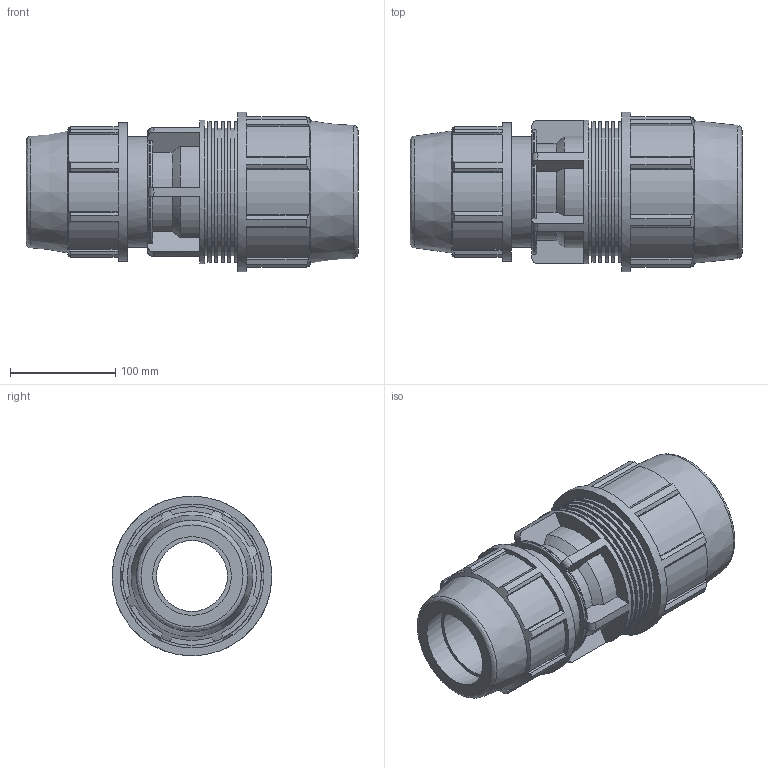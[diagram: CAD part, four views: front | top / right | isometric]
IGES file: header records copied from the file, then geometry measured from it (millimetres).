
Global section: file name: 871100090075_181100090075.ipt; native system: Autodesk Inventor 2015; preprocessor: unknown; author: KIM; date: 20170608.042523; units: millimetre
Bounding box: 316 x 152 x 152 mm (x, y, z)
Volume: 2172808.7 mm3; surface area: 287282 mm2
Topology: 1 solids, 1 shells, 207 faces, 580 edges, 392 vertices
Faces by surface type: plane 123, cylinder 54, revolution 20, cone 10
Full cylindrical faces by diameter (mm): 105.6 x1, 121.6 x5, 132 x1, 134.064 x5, 136.8 x1, 152 x1
